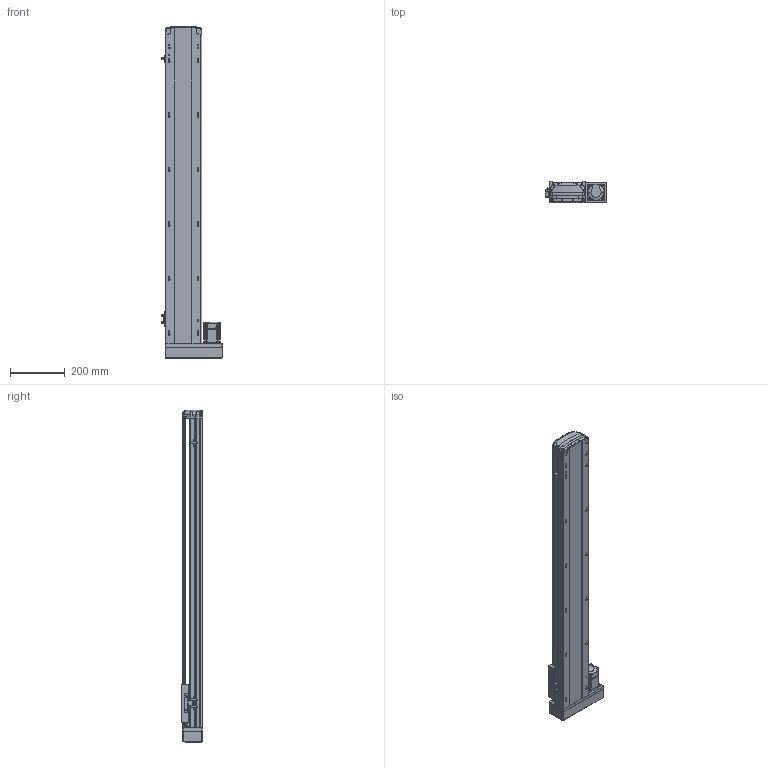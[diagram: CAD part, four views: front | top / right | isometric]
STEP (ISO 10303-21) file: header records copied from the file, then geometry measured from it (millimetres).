
FILE_DESCRIPTION (( 'STEP AP214' ), '1' );
FILE_NAME ('RTH14-XX-950-R-M20-C4.STEP', '2025-10-24T09:57:40', ( 'Microsoft' ), ( 'Microsoft' ), 'SwSTEP 2.0', 'SolidWorks 2018', '' );
FILE_SCHEMA (( 'AUTOMOTIVE_DESIGN' ));
Length unit declared in the file: millimetre
Products named in the file (10): N_RTH13-L-018 裔赽^RTH14-XX-XX-R-M20-C4; N_RTH14-R-004-SFSR16賑釱^RTH14-XX-XX-R-M20-C4; N_MSMD022P1AA_200W^RTH14-XX-XX-R-M20-C4; N_RTH13-L-008-P20 萇儂啣酘蛌殏^RTH14-XX-XX-R-M20-C4; N_RTH14-GY-001P^RTH14-XX-XX-R-M20-C4; N_RTH13-L-012感应片（外置）^RTH14-XX-XX-R-M20-C4; N_OMRON EE-SX672 传感器^RTH14-XX-XX-R-M20-C4; N_RTH14-M-011P菁釱^RTH14-XX-XX-R-M20-C4; N_RTH14-M-007P奻裔^RTH14-XX-XX-R-M20-C4; RTH14-XX-950-R-M20-C4
Assembly tree (11 placements, depth 2):
  RTH14-XX-950-R-M20-C4
    N_RTH14-M-011P菁釱^RTH14-XX-XX-R-M20-C4
    N_RTH14-M-007P奻裔^RTH14-XX-XX-R-M20-C4
    N_MSMD022P1AA_200W^RTH14-XX-XX-R-M20-C4
    N_RTH13-L-008-P20 萇儂啣酘蛌殏^RTH14-XX-XX-R-M20-C4
    N_RTH13-L-018 裔赽^RTH14-XX-XX-R-M20-C4
    N_RTH13-L-012感应片（外置）^RTH14-XX-XX-R-M20-C4
    N_OMRON EE-SX672 传感器^RTH14-XX-XX-R-M20-C4  x3
    N_RTH14-R-004-SFSR16賑釱^RTH14-XX-XX-R-M20-C4
    N_RTH14-GY-001P^RTH14-XX-XX-R-M20-C4
Bounding box: 224 x 78.03 x 1217.73 mm (x, y, z)
Volume: 5240214.3 mm3; surface area: 1221476 mm2
Topology: 10 solids, 12 shells, 1897 faces, 5314 edges, 3485 vertices
Faces by surface type: plane 993, cylinder 509, bspline 346, cone 45, torus 4
Entity records: 58229 total; most frequent: CARTESIAN_POINT 23361, ORIENTED_EDGE 7685, DIRECTION 6208, EDGE_CURVE 3848, VERTEX_POINT 2521, VECTOR 2182, LINE 2182, AXIS2_PLACEMENT_3D 2013
